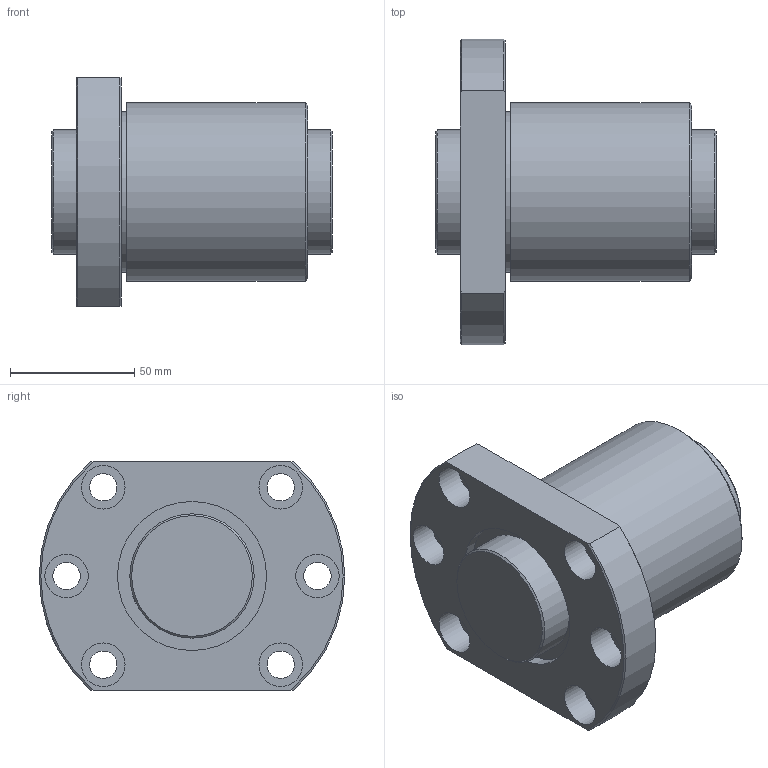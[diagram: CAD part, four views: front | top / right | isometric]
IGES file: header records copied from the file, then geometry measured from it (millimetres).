
Start section: Data from Parasolid IGES Translator 26.0.171, Copyright(c) 2006 Siemens PLM Software. All Rights Reserved.
Global section: file name: DK5010-4RRG1+113LC0_000.igs; native system: By Siemens PLM Incorporated; preprocessor: XPlus GENERIC/IGES 26.0.171; author: Noname; organization: Noname; date: 20250113.092051; units: millimetre
Bounding box: 113 x 123 x 92 mm (x, y, z)
Surface area: 82506.7 mm2 (no closed solid volume)
Topology: 0 solids, 0 shells, 46 faces, 190 edges, 164 vertices
Faces by surface type: revolution 30, extrusion 16
